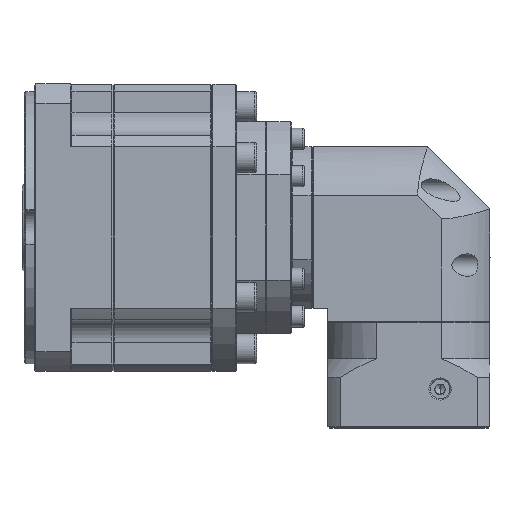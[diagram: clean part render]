
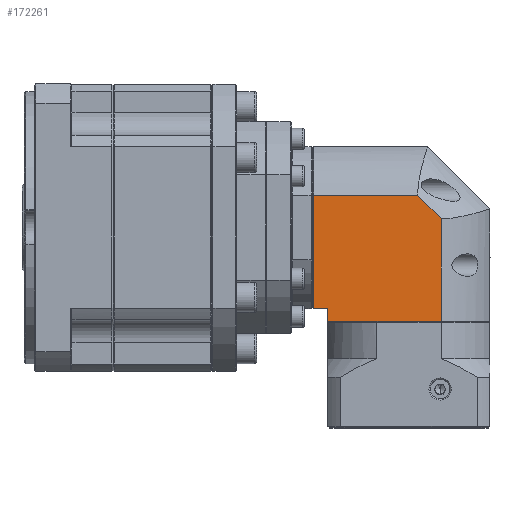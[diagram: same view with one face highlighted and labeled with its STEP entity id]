
A CAD part, top view. The second image highlights one B-rep face of the part: STEP entity #172261.
In plain terms, the highlighted planar face has unit normal (0, 0, 1).
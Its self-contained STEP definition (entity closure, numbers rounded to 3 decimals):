
#8227 = VECTOR ( 'NONE', #174976, 1000. ) ;
#8690 = ORIENTED_EDGE ( 'NONE', *, *, #157329, .T. ) ;
#15034 = CARTESIAN_POINT ( 'NONE',  ( -19.801, -56.59, -71.877 ) ) ;
#15585 = ORIENTED_EDGE ( 'NONE', *, *, #52897, .T. ) ;
#18478 = ORIENTED_EDGE ( 'NONE', *, *, #126835, .T. ) ;
#19478 = ORIENTED_EDGE ( 'NONE', *, *, #155461, .T. ) ;
#20535 = VERTEX_POINT ( 'NONE', #64413 ) ;
#26779 = VERTEX_POINT ( 'NONE', #36081 ) ;
#32361 = VECTOR ( 'NONE', #119035, 1000. ) ;
#36081 = CARTESIAN_POINT ( 'NONE',  ( -29.298, -6.1, -71.877 ) ) ;
#36392 = ORIENTED_EDGE ( 'NONE', *, *, #161791, .T. ) ;
#37292 = CARTESIAN_POINT ( 'NONE',  ( -75.291, -56.59, -71.877 ) ) ;
#39659 = CARTESIAN_POINT ( 'NONE',  ( -75.291, -51.59, -71.877 ) ) ;
#50484 = CARTESIAN_POINT ( 'NONE',  ( -70.991, -51.59, -71.877 ) ) ;
#51927 = LINE ( 'NONE', #92341, #88423 ) ;
#52897 = EDGE_CURVE ( 'NONE', #26779, #20535, #51927, .T. ) ;
#53465 = DIRECTION ( 'NONE',  ( 1., 0., 0. ) ) ;
#58891 = VECTOR ( 'NONE', #119563, 1000. ) ;
#60063 = CARTESIAN_POINT ( 'NONE',  ( -19.801, -15.597, -71.877 ) ) ;
#64413 = CARTESIAN_POINT ( 'NONE',  ( -70.991, -6.1, -71.877 ) ) ;
#66270 = VERTEX_POINT ( 'NONE', #15034 ) ;
#69225 = CARTESIAN_POINT ( 'NONE',  ( -65.291, -51.59, -71.877 ) ) ;
#70231 = CARTESIAN_POINT ( 'NONE',  ( -70.991, -51.59, -71.877 ) ) ;
#73169 = VECTOR ( 'NONE', #103237, 1000. ) ;
#77453 = VERTEX_POINT ( 'NONE', #60063 ) ;
#77953 = DIRECTION ( 'NONE',  ( 0., 0., -1. ) ) ;
#88423 = VECTOR ( 'NONE', #174646, 1000. ) ;
#92341 = CARTESIAN_POINT ( 'NONE',  ( -0.291, -6.1, -71.877 ) ) ;
#92671 = CARTESIAN_POINT ( 'NONE',  ( -65.291, 13.41, -71.877 ) ) ;
#94710 = EDGE_CURVE ( 'NONE', #140986, #153940, #135775, .T. ) ;
#95406 = LINE ( 'NONE', #50484, #58891 ) ;
#101804 = EDGE_CURVE ( 'NONE', #153940, #178217, #117868, .T. ) ;
#103237 = DIRECTION ( 'NONE',  ( -0.707, 0.707, 0. ) ) ;
#105052 = PLANE ( 'NONE',  #150872 ) ;
#109808 = LINE ( 'NONE', #172291, #73169 ) ;
#117868 = LINE ( 'NONE', #92671, #8227 ) ;
#119035 = DIRECTION ( 'NONE',  ( 1., 0., 0. ) ) ;
#119563 = DIRECTION ( 'NONE',  ( 0., -1., 0. ) ) ;
#124743 = ORIENTED_EDGE ( 'NONE', *, *, #101804, .T. ) ;
#125015 = ORIENTED_EDGE ( 'NONE', *, *, #94710, .T. ) ;
#126835 = EDGE_CURVE ( 'NONE', #66270, #77453, #133422, .T. ) ;
#130678 = CARTESIAN_POINT ( 'NONE',  ( -65.291, -56.59, -71.877 ) ) ;
#133422 = LINE ( 'NONE', #161728, #165625 ) ;
#134740 = DIRECTION ( 'NONE',  ( 0., 1., 0. ) ) ;
#135775 = LINE ( 'NONE', #39659, #167989 ) ;
#137700 = LINE ( 'NONE', #37292, #32361 ) ;
#140986 = VERTEX_POINT ( 'NONE', #70231 ) ;
#150872 = AXIS2_PLACEMENT_3D ( 'NONE', #160278, #77953, #174076 ) ;
#153940 = VERTEX_POINT ( 'NONE', #69225 ) ;
#155461 = EDGE_CURVE ( 'NONE', #178217, #66270, #137700, .T. ) ;
#157329 = EDGE_CURVE ( 'NONE', #77453, #26779, #109808, .T. ) ;
#160278 = CARTESIAN_POINT ( 'NONE',  ( -75.291, 13.41, -71.877 ) ) ;
#161728 = CARTESIAN_POINT ( 'NONE',  ( -19.801, 13.41, -71.877 ) ) ;
#161791 = EDGE_CURVE ( 'NONE', #20535, #140986, #95406, .T. ) ;
#165547 = EDGE_LOOP ( 'NONE', ( #18478, #8690, #15585, #36392, #125015, #124743, #19478 ) ) ;
#165625 = VECTOR ( 'NONE', #134740, 1000. ) ;
#167989 = VECTOR ( 'NONE', #53465, 1000. ) ;
#172261 = ADVANCED_FACE ( 'NONE', ( #176227 ), #105052, .F. ) ;
#172291 = CARTESIAN_POINT ( 'NONE',  ( -390.603, 355.205, -71.877 ) ) ;
#174076 = DIRECTION ( 'NONE',  ( -1., 0., 0. ) ) ;
#174646 = DIRECTION ( 'NONE',  ( -1., 0., 0. ) ) ;
#174976 = DIRECTION ( 'NONE',  ( 0., -1., 0. ) ) ;
#176227 = FACE_OUTER_BOUND ( 'NONE', #165547, .T. ) ;
#178217 = VERTEX_POINT ( 'NONE', #130678 ) ;
